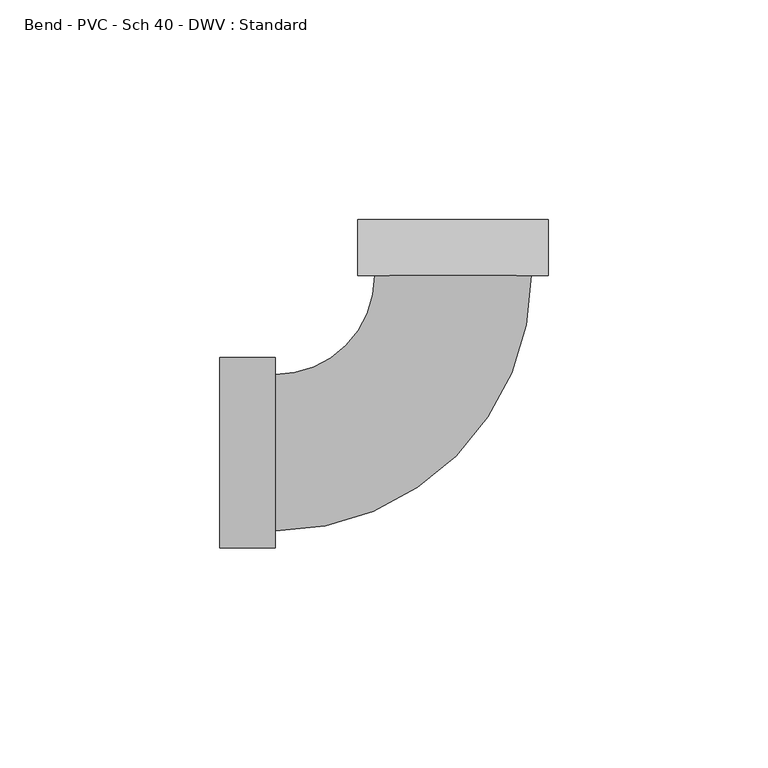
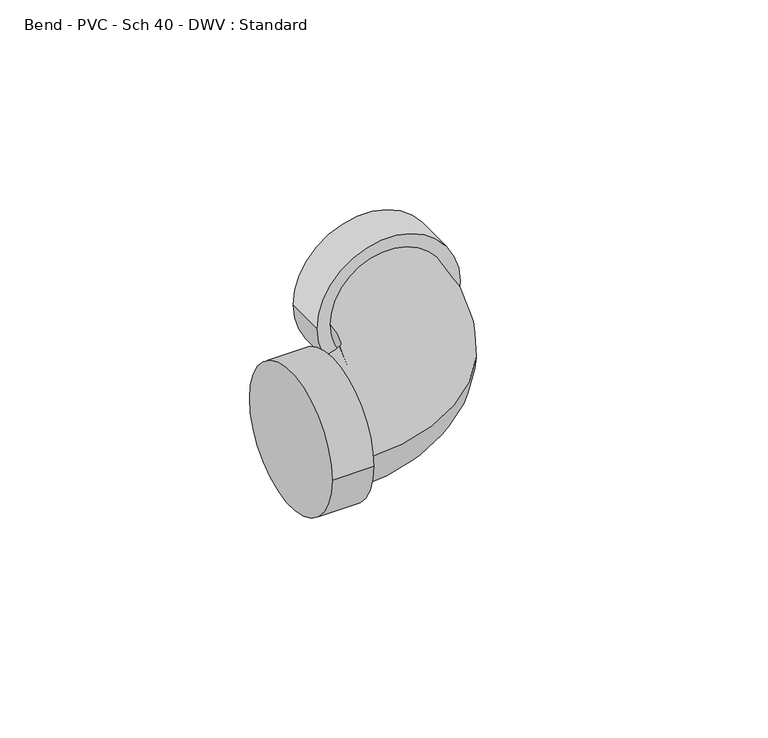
"""IFC4 building model written with IfcOpenShell, lengths in millimetres: pipe fitting geometry, Bend - PVC - Sch 40 - DWV : Standard."""

from ifc_helpers import new_model, si_unit, point, frame, origin, place, context, project, spatial, circle_curve, ellipse_curve, trimmed, source, transform, mapped, element, save
from ifc_brep_helpers import plane_surface, cylinder_surface, revolved_surface, advanced_brep


def bend_pvc_sch_40_dwv_standard_7031e9b3(model_context):
    return source(origin(), model_context, "Body", "AdvancedBrep", [
        advanced_brep(
        [(-53.0780625, -21.7031094, 0.0), (-53.0780625, 21.7031094, 0.0), (-40.3780625, -21.7031094, 0.0), (-40.3780625, 21.7031094, 0.0), (-40.3780625, -17.7720625, 0.0), (-40.3780625, 17.7720625, 0.0), (-17.7720625, 40.3780625, 0.0), (17.7720625, 40.3780625, 0.0), (21.7031094, 40.3780625, 0.0), (-21.7031094, 40.3780625, 0.0), (21.7031094, 53.0780625, 0.0), (-21.7031094, 53.0780625, 0.0)],
        [
            (0, 1, circle_curve(frame((-53.0780625, 0.0, 0.0), z_axis=(-1.0, 0.0, 0.0), x_axis=(0.0, 1.0, 0.0)), 21.7031094)),
            (1, 0, circle_curve(frame((-53.0780625, 0.0, 0.0), z_axis=(-1.0, 0.0, 0.0), x_axis=(0.0, 1.0, 0.0)), 21.7031094)),
            (2, 3, circle_curve(frame((-40.3780625, 0.0, 0.0), z_axis=(1.0, 0.0, 0.0), x_axis=(0.0, 1.0, 0.0)), 21.7031094)),
            (3, 2, circle_curve(frame((-40.3780625, 0.0, 0.0), z_axis=(1.0, 0.0, 0.0), x_axis=(0.0, 1.0, 0.0)), 21.7031094)),
            (4, 5, circle_curve(frame((-40.3780625, 0.0, 0.0), z_axis=(-1.0, 0.0, 0.0), x_axis=(0.0, 1.0, 0.0)), 17.7720625)),
            (5, 4, circle_curve(frame((-40.3780625, 0.0, 0.0), z_axis=(-1.0, 0.0, 0.0), x_axis=(0.0, 1.0, 0.0)), 17.7720625)),
            (0, 2),
            (3, 1),
            (6, 5, circle_curve(frame((-40.3780625, 40.3780625, 0.0), z_axis=(0.0, 0.0, -1.0), x_axis=(0.0, -1.0, 0.0)), 22.606)),
            (4, 7, circle_curve(frame((-40.3780625, 40.3780625, 0.0), z_axis=(0.0, 0.0, 1.0), x_axis=(0.0, -1.0, 0.0)), 58.150125)),
            (7, 6, circle_curve(frame((0.0, 40.3780625, 0.0), z_axis=(0.0, -1.0, 0.0), x_axis=(-1.0, 0.0, 0.0)), 17.7720625)),
            (6, 7, circle_curve(frame((0.0, 40.3780625, 0.0), z_axis=(0.0, -1.0, 0.0), x_axis=(-1.0, 0.0, 0.0)), 17.7720625)),
            (8, 9, circle_curve(frame((0.0, 40.3780625, 0.0), z_axis=(0.0, -1.0, 0.0), x_axis=(-1.0, 0.0, 0.0)), 21.7031094)),
            (9, 8, circle_curve(frame((0.0, 40.3780625, 0.0), z_axis=(0.0, -1.0, 0.0), x_axis=(-1.0, 0.0, 0.0)), 21.7031094)),
            (10, 11, circle_curve(frame((0.0, 53.0780625, 0.0), z_axis=(0.0, 1.0, 0.0), x_axis=(-1.0, 0.0, 0.0)), 21.7031094)),
            (11, 10, circle_curve(frame((0.0, 53.0780625, 0.0), z_axis=(0.0, 1.0, 0.0), x_axis=(-1.0, 0.0, 0.0)), 21.7031094)),
            (8, 10),
            (11, 9),
        ],
        [
            plane_surface(frame((-53.0780625, 0.0, 0.0), z_axis=(-1.0, 0.0, 0.0), x_axis=(0.0, 0.0, 1.0))),
            plane_surface(frame((-40.3780625, 0.0, 0.0), z_axis=(1.0, 0.0, 0.0), x_axis=(0.0, 0.0, 1.0))),
            cylinder_surface(frame((-53.0780625, 0.0, 0.0), z_axis=(-1.0, 0.0, 0.0), x_axis=(0.0, 1.0, 0.0)), 21.7031094),
            revolved_surface(trimmed(ellipse_curve(frame((-40.3780625, 0.0, 0.0), z_axis=(-1.0, 0.0, 0.0), x_axis=(0.0, 1.0, 0.0)), 17.7720625, 17.7720625), [point((-40.3780625, -17.7720625, 0.0))], [point((-40.3780625, 17.7720625, 0.0))], True, "CARTESIAN"), (-40.3780625, 40.3780625, 0.0), (0.0, 0.0, 1.0)),
            revolved_surface(trimmed(ellipse_curve(frame((-40.3780625, 0.0, 0.0), z_axis=(-1.0, 0.0, 0.0), x_axis=(0.0, 1.0, 0.0)), 17.7720625, 17.7720625), [point((-40.3780625, 17.7720625, 0.0))], [point((-40.3780625, -17.7720625, 0.0))], True, "CARTESIAN"), (-40.3780625, 40.3780625, 0.0), (0.0, 0.0, 1.0)),
            plane_surface(frame((0.0, 40.3780625, 0.0), z_axis=(0.0, -1.0, 0.0), x_axis=(0.0, 0.0, 1.0))),
            plane_surface(frame((0.0, 53.0780625, 0.0), z_axis=(0.0, 1.0, 0.0), x_axis=(0.0, 0.0, 1.0))),
            cylinder_surface(frame((0.0, 40.3780625, 0.0), z_axis=(0.0, -1.0, 0.0), x_axis=(-1.0, 0.0, 0.0)), 21.7031094),
        ],
        [
            (0, [[1, 2]]),
            (1, [[3, 4], [5, 6]]),
            (2, [[-1, 7, -4, 8]]),
            (2, [[-2, -8, -3, -7]]),
            (3, [[9, -5, 10, 11]]),
            (4, [[-9, 12, -10, -6]]),
            (5, [[13, 14], [-11, -12]]),
            (6, [[15, 16]]),
            (7, [[-13, 17, -16, 18]]),
            (7, [[-14, -18, -15, -17]]),
        ],
    ),
    ])


if __name__ == "__main__":
    model = new_model("IFC4")
    model_context = context("Model", 3, world=origin())
    ifc_project = project(units=[si_unit("LENGTHUNIT", "METRE", prefix="MILLI")], contexts=[model_context])
    site = spatial("IfcSite", under=ifc_project)
    building = spatial("IfcBuilding", under=site)
    placement = place(None, origin())
    bend_pvc_sch_40_dwv_standard_shape = bend_pvc_sch_40_dwv_standard_7031e9b3(model_context)
    element("IfcPipeFitting", 1, ObjectType="Bend - PVC - Sch 40 - DWV : Standard", at=placement, inside=building, context=model_context, shape_type="MappedRepresentation", body=[
        mapped(bend_pvc_sch_40_dwv_standard_shape, transform((0.0, 0.0, 0.0), x_axis=(1.0, 0.0, 0.0), y_axis=(0.0, 1.0, 0.0), z_axis=(0.0, 0.0, 1.0))),
    ])
    save(model, "model.ifc")
